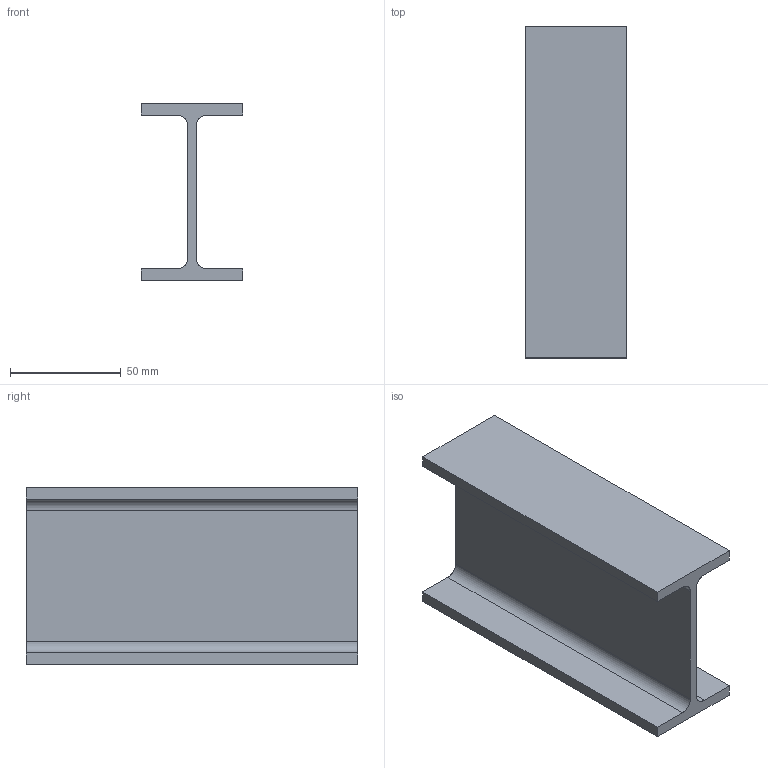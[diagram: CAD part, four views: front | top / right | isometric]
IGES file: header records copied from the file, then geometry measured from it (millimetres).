
Start section: SolidWorks IGES file using analytic representation for surfaces
Global section: file name: C:\Users\tungari.NEMOLIGHTING\Desktop\3D\TABLE\BOH\3D_MINI_MAIS_PLUS_QUE_CELA_JE_NE_PEUX_PAS\DEF\3D_MINI_MAIS_PLUS_QUE_CELA_JE_NE_PEUX_PAS.IGS; native system: SolidWorks 2016; preprocessor: SolidWorks 2016; author: tungari; date: 180301.122655; units: millimetre
Bounding box: 46 x 150 x 80 mm (x, y, z)
Surface area: 54434.5 mm2 (no closed solid volume)
Topology: 0 solids, 0 shells, 99 faces, 564 edges, 564 vertices
Faces by surface type: bspline 93, revolution 6
